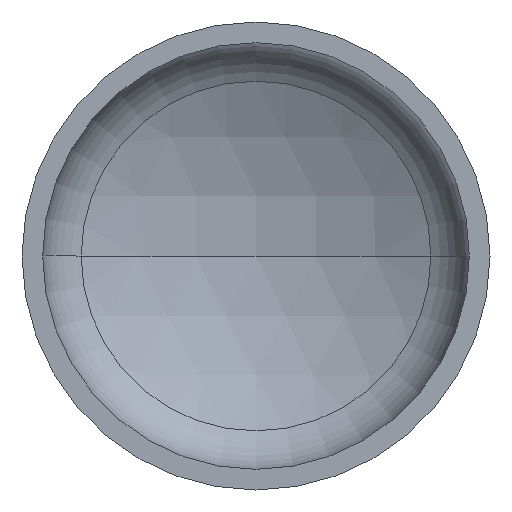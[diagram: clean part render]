
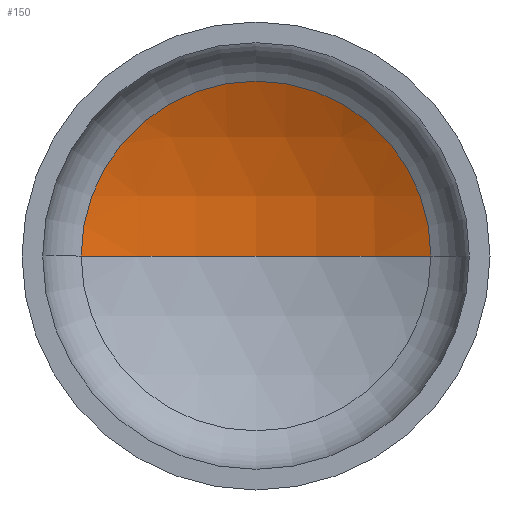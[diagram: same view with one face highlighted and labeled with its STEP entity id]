
A CAD part, front view. The second image highlights one B-rep face of the part: STEP entity #150.
In plain terms, the highlighted spherical face has radius 1920 mm.
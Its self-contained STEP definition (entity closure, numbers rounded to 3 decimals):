
#1 = AXIS2_PLACEMENT_3D ( 'NONE', #257, #233, #227 ) ;
#10 = AXIS2_PLACEMENT_3D ( 'NONE', #245, #244, #243 ) ;
#28 = ORIENTED_EDGE ( 'NONE', *, *, #339, .T. ) ;
#35 = ORIENTED_EDGE ( 'NONE', *, *, #351, .F. ) ;
#41 = AXIS2_PLACEMENT_3D ( 'NONE', #291, #285, #256 ) ;
#43 = FACE_OUTER_BOUND ( 'NONE', #58, .T. ) ;
#44 = VERTEX_POINT ( 'NONE', #231 ) ;
#46 = AXIS2_PLACEMENT_3D ( 'NONE', #280, #274, #271 ) ;
#58 = EDGE_LOOP ( 'NONE', ( #35, #28, #125 ) ) ;
#90 = VERTEX_POINT ( 'NONE', #294 ) ;
#113 = EDGE_CURVE ( 'NONE', #44, #90, #307, .T. ) ;
#125 = ORIENTED_EDGE ( 'NONE', *, *, #113, .T. ) ;
#126 = VERTEX_POINT ( 'NONE', #230 ) ;
#127 = CIRCLE ( 'NONE', #1, 1920. ) ;
#142 = CIRCLE ( 'NONE', #10, 1920. ) ;
#150 = ADVANCED_FACE ( 'NONE', ( #43 ), #176, .F. ) ;
#176 = SPHERICAL_SURFACE ( 'NONE', #41, 1920. ) ;
#227 = DIRECTION ( 'NONE',  ( 1., 0., 0. ) ) ;
#230 = CARTESIAN_POINT ( 'NONE',  ( 0., 624.48, 0. ) ) ;
#231 = CARTESIAN_POINT ( 'NONE',  ( 896.826, 402.156, 0. ) ) ;
#233 = DIRECTION ( 'NONE',  ( 0., 0., 1. ) ) ;
#243 = DIRECTION ( 'NONE',  ( -1., 0., 0. ) ) ;
#244 = DIRECTION ( 'NONE',  ( 0., 0., -1. ) ) ;
#245 = CARTESIAN_POINT ( 'NONE',  ( 0., -1295.52, 0. ) ) ;
#256 = DIRECTION ( 'NONE',  ( -1., 0., 0. ) ) ;
#257 = CARTESIAN_POINT ( 'NONE',  ( 0., -1295.52, 0. ) ) ;
#271 = DIRECTION ( 'NONE',  ( 1., 0., 0. ) ) ;
#274 = DIRECTION ( 'NONE',  ( 0., -1., 0. ) ) ;
#280 = CARTESIAN_POINT ( 'NONE',  ( 0., 402.156, 0. ) ) ;
#285 = DIRECTION ( 'NONE',  ( 0., 0., -1. ) ) ;
#291 = CARTESIAN_POINT ( 'NONE',  ( 0., -1295.52, 0. ) ) ;
#294 = CARTESIAN_POINT ( 'NONE',  ( -896.826, 402.156, 0. ) ) ;
#307 = CIRCLE ( 'NONE', #46, 896.826 ) ;
#339 = EDGE_CURVE ( 'NONE', #126, #44, #142, .T. ) ;
#351 = EDGE_CURVE ( 'NONE', #126, #90, #127, .T. ) ;
